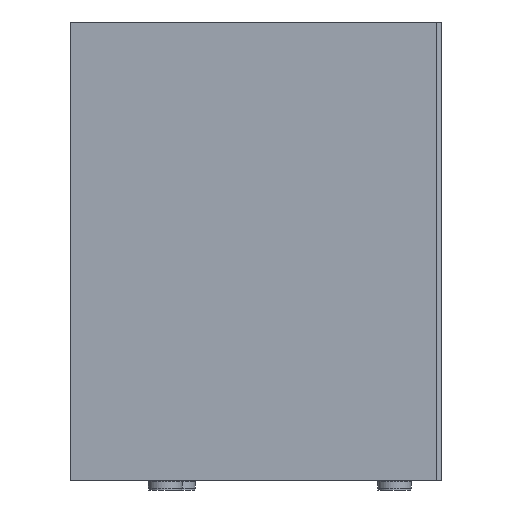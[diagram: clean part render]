
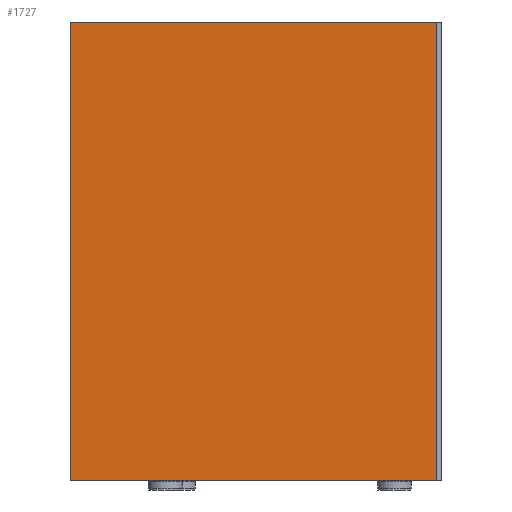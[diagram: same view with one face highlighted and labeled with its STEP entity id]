
A CAD part, left-side view. The second image highlights one B-rep face of the part: STEP entity #1727.
In plain terms, the highlighted planar face has unit normal (-1, 0, 0).
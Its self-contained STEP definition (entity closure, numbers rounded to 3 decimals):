
#169=PLANE('',#1998);
#257=FACE_OUTER_BOUND('',#360,.T.);
#360=EDGE_LOOP('',(#1329,#1330,#1331,#1332));
#464=LINE('',#2703,#657);
#473=LINE('',#2725,#666);
#476=LINE('',#2730,#669);
#477=LINE('',#2732,#670);
#657=VECTOR('',#2192,10.);
#666=VECTOR('',#2217,10.);
#669=VECTOR('',#2222,10.);
#670=VECTOR('',#2225,10.);
#880=VERTEX_POINT('',#2700);
#881=VERTEX_POINT('',#2702);
#886=VERTEX_POINT('',#2724);
#887=VERTEX_POINT('',#2728);
#1039=EDGE_CURVE('',#880,#881,#464,.T.);
#1050=EDGE_CURVE('',#886,#881,#473,.T.);
#1053=EDGE_CURVE('',#887,#880,#476,.T.);
#1054=EDGE_CURVE('',#886,#887,#477,.T.);
#1329=ORIENTED_EDGE('',*,*,#1039,.F.);
#1330=ORIENTED_EDGE('',*,*,#1053,.F.);
#1331=ORIENTED_EDGE('',*,*,#1054,.F.);
#1332=ORIENTED_EDGE('',*,*,#1050,.T.);
#1727=ADVANCED_FACE('',(#257),#169,.F.);
#1998=AXIS2_PLACEMENT_3D('',#2737,#2234,#2235);
#2192=DIRECTION('',(0.,0.,-1.));
#2217=DIRECTION('',(0.,-1.,0.));
#2222=DIRECTION('',(0.,-1.,0.));
#2225=DIRECTION('',(0.,0.,1.));
#2234=DIRECTION('center_axis',(1.,0.,0.));
#2235=DIRECTION('ref_axis',(0.,0.,-1.));
#2700=CARTESIAN_POINT('',(-341.,2.,265.));
#2702=CARTESIAN_POINT('',(-341.,2.,-265.));
#2703=CARTESIAN_POINT('',(-341.,2.,0.));
#2724=CARTESIAN_POINT('',(-341.,426.,-265.));
#2725=CARTESIAN_POINT('',(-341.,426.,-265.));
#2728=CARTESIAN_POINT('',(-341.,426.,265.));
#2730=CARTESIAN_POINT('',(-341.,426.,265.));
#2732=CARTESIAN_POINT('',(-341.,426.,-265.));
#2737=CARTESIAN_POINT('Origin',(-341.,-338.25,0.));
